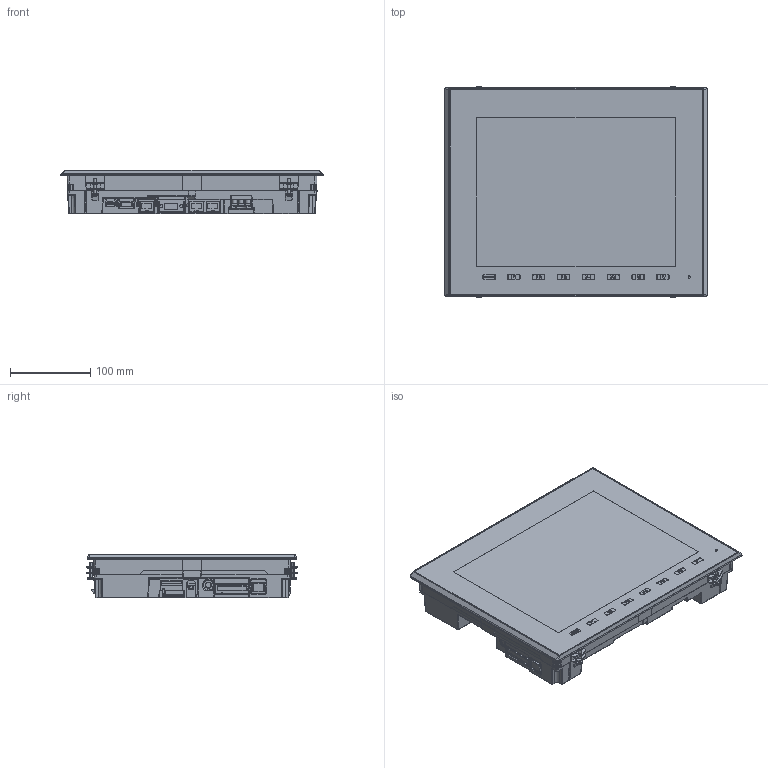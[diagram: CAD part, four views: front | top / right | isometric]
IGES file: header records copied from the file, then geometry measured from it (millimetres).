
Start section:  PTC IGES file: v912isd-3d-data.igs
Global section: file name: v912isd-3d-data.igs; native system: Pro/ENGINEER by Parametric Technology Corporation; preprocessor: 2011330; author: takahashi; organization: Unknown; date: 20150107.095012; units: millimetre
Bounding box: 327.8 x 264.4 x 54.9 mm (x, y, z)
Volume: 3948654.1 mm3; surface area: 249985.3 mm2
Topology: 1 solids, 1 shells, 3752 faces, 10253 edges, 6630 vertices
Faces by surface type: bspline 2980, revolution 753, extrusion 19
